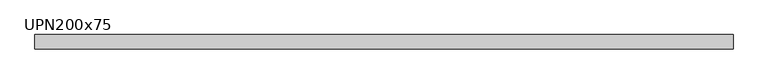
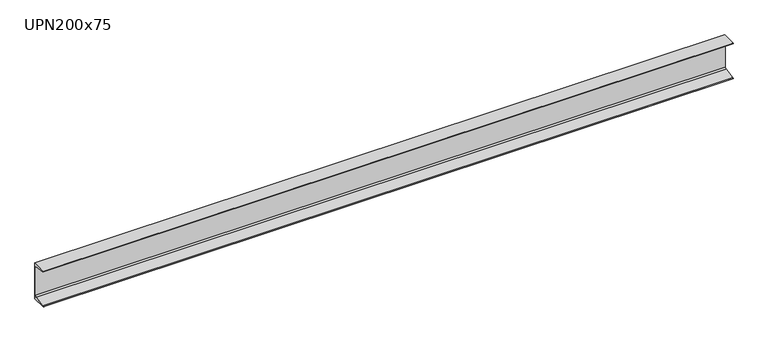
"""IFC4 building model written with IfcOpenShell, lengths in millimetres: beam geometry, M_MC Shapes : UPN200x75."""

from ifc_helpers import new_model, si_unit, point, frame, frame_2d, origin, place, context, project, spatial, polyline, circle_curve, trimmed, segment, composite_curve, outline, extrude, source, transform, mapped, element, save


def upn200x75_df23aae5(model_context):
    return source(origin(), model_context, "Body", "SweptSolid", [
        extrude(outline(composite_curve([segment(polyline([(10.9, 100.0), (10.9, -100.0), (-64.1, -100.0), (-64.1, -99.0253247)]), True, "CONTINUOUS"), segment(trimmed(circle_curve(frame_2d((-60.15, -99.0253247)), 3.95), [point((-64.1, -99.0253247))], [point((-60.7993773, -95.1290689))], False, "CARTESIAN"), True, "CONTINUOUS"), segment(polyline([(-60.7993773, -95.1290689), (-0.2512455, -85.0376935)]), True, "CONTINUOUS"), segment(trimmed(circle_curve(frame_2d((-1.55, -77.2451819)), 7.9), [point((-0.2512455, -85.0376935))], [point((6.35, -77.2451819))], True, "CARTESIAN"), True, "CONTINUOUS"), segment(polyline([(6.35, -77.2451819), (6.35, 77.2451819)]), True, "CONTINUOUS"), segment(trimmed(circle_curve(frame_2d((-1.55, 77.2451819)), 7.9), [point((6.35, 77.2451819))], [point((-0.2512455, 85.0376935))], True, "CARTESIAN"), True, "CONTINUOUS"), segment(polyline([(-0.2512455, 85.0376935), (-60.7993773, 95.1290689)]), True, "CONTINUOUS"), segment(trimmed(circle_curve(frame_2d((-60.15, 99.0253247)), 3.95), [point((-60.7993773, 95.1290689))], [point((-64.1, 99.0253247))], False, "CARTESIAN"), True, "CONTINUOUS"), segment(polyline([(-64.1, 99.0253247), (-64.1, 100.0), (10.9, 100.0)]), True, "CONTINUOUS")], self_intersect=False)), frame((-1816.95, 0.0, 0.0), z_axis=(1.0, 0.0, 0.0), x_axis=(0.0, 1.0, 0.0)), (0.0, 0.0, 1.0), 3633.9),
    ])


if __name__ == "__main__":
    model = new_model("IFC4")
    model_context = context("Model", 3, world=origin())
    ifc_project = project(units=[si_unit("LENGTHUNIT", "METRE", prefix="MILLI")], contexts=[model_context])
    site = spatial("IfcSite", under=ifc_project)
    building = spatial("IfcBuilding", under=site)
    placement = place(None, origin())
    upn200x75_shape = upn200x75_df23aae5(model_context)
    element("IfcBeam", 1, ObjectType="M_MC Shapes : UPN200x75", at=placement, inside=building, context=model_context, shape_type="MappedRepresentation", body=[
        mapped(upn200x75_shape, transform((0.0, 0.0, 0.0), x_axis=(1.0, 0.0, 0.0), y_axis=(0.0, 1.0, 0.0), z_axis=(0.0, 0.0, 1.0))),
    ])
    save(model, "model.ifc")
